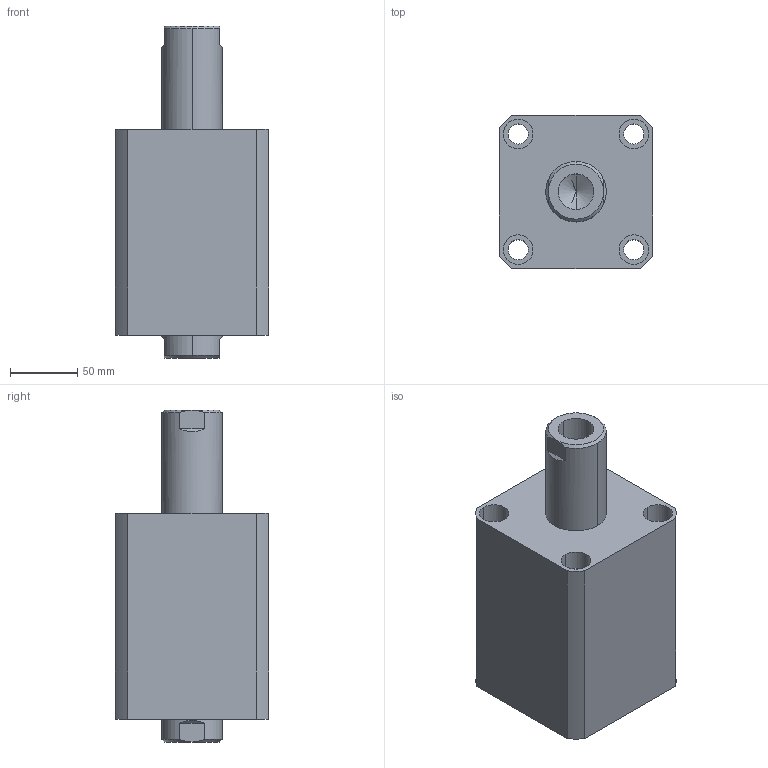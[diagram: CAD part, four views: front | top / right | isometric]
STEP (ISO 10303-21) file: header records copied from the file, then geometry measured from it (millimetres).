
FILE_DESCRIPTION (( 'STEP AP214' ), '1' );
FILE_NAME ('chtb-sw80x60n_asm.STEP', '2018-05-28T00:49:21', ( 'Windows' ), ( 'Microsoft' ), 'SwSTEP 2.0', 'SolidWorks 2015', '' );
FILE_SCHEMA (( 'AUTOMOTIVE_DESIGN' ));
Length unit declared in the file: millimetre
Products named in the file (4): CHTB-SW80X60NBT; CHTB-SD80X60NHSG; CHTB-SD80QG; chtb-sw80x60n_asm
Assembly tree (3 placements, depth 2):
  chtb-sw80x60n_asm
    CHTB-SD80QG
    CHTB-SD80X60NHSG
    CHTB-SW80X60NBT
Bounding box: 114 x 114 x 247 mm (x, y, z)
Volume: 1710071.2 mm3; surface area: 239186.7 mm2
Topology: 3 solids, 3 shells, 208 faces, 550 edges, 365 vertices
Faces by surface type: cylinder 109, plane 42, cone 25, torus 18, bspline 14
Entity records: 15645 total; most frequent: CARTESIAN_POINT 10539, ORIENTED_EDGE 1084, DIRECTION 970, EDGE_CURVE 542, AXIS2_PLACEMENT_3D 407, VERTEX_POINT 365, EDGE_LOOP 249, ADVANCED_FACE 208
